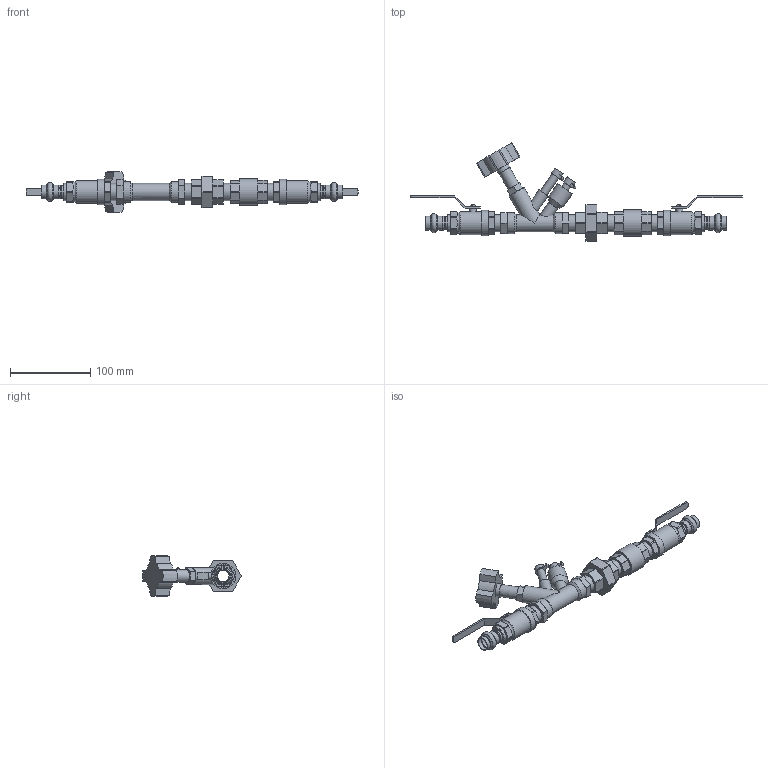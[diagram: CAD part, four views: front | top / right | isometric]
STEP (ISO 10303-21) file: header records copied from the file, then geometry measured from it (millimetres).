
FILE_DESCRIPTION(/* description */ ('VIC DOMESTIC WATER KIT FOR HYDRONIC BALANCING SERIES 7W9 (CPF)','CAx-IF Rec.Pracs.---Representation and Presentation of Product Manufacturing Information (PMI)---4.0---2014-10-13'),/* implementation_level */ '2;1');
FILE_NAME(/* name */ 'C:\Users\Vjadhav\AppData\Roaming\Autodesk\ApplicationPlugins\Victaulic.Temp\A633\Victaulic_Domestic Water Kit for Hydronic Balancing_Series 7W9 (CPF)_PRS_0.5 (15).stp',/* time_stamp */ '2021-08-10T10:25:40+06:00',/* author */ ('Vjadhav'),/* organization */ ('Victaulic'),/* preprocessor_version */ 'ST-DEVELOPER v17.2',/* originating_system */ 'Autodesk Inventor 2019',/* authorisation */ '');
FILE_SCHEMA (('AP242_MANAGED_MODEL_BASED_3D_ENGINEERING_MIM_LF { 1 0 10303 442 1 1 4 }'));
Length unit declared in the file: inch
Products named in the file (7): 7W9_PRS-0.5; Union_BR_386-0.5; Check_Valve_4133-0.5; Nipple_BR_386_Prs-0.5; 722L_Prs-0.5; P596-0.5x0.5; 790-0.5
Assembly tree (11 placements, depth 2):
  7W9_PRS-0.5
    Union_BR_386-0.5
    Nipple_BR_386_Prs-0.5  x4
    722L_Prs-0.5  x2
    P596-0.5x0.5  x2
    Check_Valve_4133-0.5
    790-0.5
Bounding box: 412.75 x 122.71 x 50.62 mm (x, y, z)
Volume: 198890.5 mm3; surface area: 96093.5 mm2
Topology: 11 solids, 11 shells, 393 faces, 1066 edges, 738 vertices
Faces by surface type: plane 245, cylinder 115, torus 22, cone 11
Full cylindrical faces by diameter (mm): 3.81 x2, 8.763 x2, 9.652 x2, 12.7 x2, 13.97 x2, 14.453 x2, 15.138 x2, 15.24 x1, 15.799 x7, 15.875 x6, 15.9 x4, 16.51 x1, 17.297 x4, 21.336 x18, 22.352 x1, 26.086 x2, 28.567 x2, 31.496 x2, 33.02 x1
Entity records: 9784 total; most frequent: CARTESIAN_POINT 1781, DIRECTION 1641, ORIENTED_EDGE 1504, EDGE_CURVE 752, AXIS2_PLACEMENT_3D 606, VERTEX_POINT 515, LINE 429, VECTOR 429
